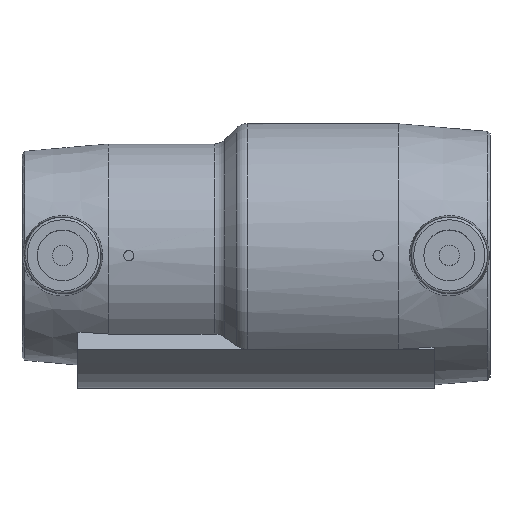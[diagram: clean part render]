
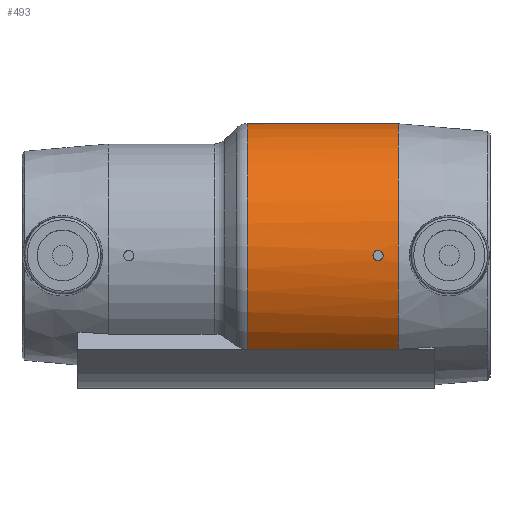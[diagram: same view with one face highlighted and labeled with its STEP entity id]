
A CAD part, top view. The second image highlights one B-rep face of the part: STEP entity #493.
In plain terms, the highlighted cylindrical face has radius 26 mm (diameter 52 mm), a partial arc.
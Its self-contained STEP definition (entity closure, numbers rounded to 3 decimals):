
#40=CYLINDRICAL_SURFACE('',#548,26.);
#53=LINE('',#829,#66);
#54=LINE('',#831,#67);
#66=VECTOR('',#632,1000.);
#67=VECTOR('',#633,1000.);
#80=CIRCLE('',#547,26.);
#81=CIRCLE('',#549,26.);
#120=ORIENTED_EDGE('',*,*,#240,.T.);
#121=ORIENTED_EDGE('',*,*,#241,.F.);
#122=ORIENTED_EDGE('',*,*,#239,.T.);
#123=ORIENTED_EDGE('',*,*,#242,.F.);
#124=ORIENTED_EDGE('',*,*,#243,.T.);
#239=EDGE_CURVE('',#297,#299,#80,.T.);
#240=EDGE_CURVE('',#300,#300,#344,.T.);
#241=EDGE_CURVE('',#297,#301,#53,.T.);
#242=EDGE_CURVE('',#302,#299,#54,.F.);
#243=EDGE_CURVE('',#302,#301,#81,.T.);
#297=VERTEX_POINT('',#810);
#299=VERTEX_POINT('',#814);
#300=VERTEX_POINT('',#828);
#301=VERTEX_POINT('',#830);
#302=VERTEX_POINT('',#832);
#344=B_SPLINE_CURVE_WITH_KNOTS('',3,(#817,#818,#819,#820,#821,#822,#823,
#824,#825,#826,#827),.UNSPECIFIED.,.T.,.F.,(1,1,1,1,1,1,1,1,1,1,1,1,1,1,
1),(-0.002,-0.002,-0.001,0.,
0.001,0.002,0.002,0.003,
0.004,0.005,0.005,0.006,
0.007,0.008,0.009),
 .UNSPECIFIED.);
#355=EDGE_LOOP('',(#120));
#356=EDGE_LOOP('',(#121,#122,#123,#124));
#421=FACE_BOUND('',#355,.T.);
#422=FACE_BOUND('',#356,.T.);
#493=ADVANCED_FACE('',(#421,#422),#40,.T.);
#547=AXIS2_PLACEMENT_3D('',#815,#628,#629);
#548=AXIS2_PLACEMENT_3D('',#816,#630,#631);
#549=AXIS2_PLACEMENT_3D('',#833,#634,#635);
#628=DIRECTION('',(-1.,0.,0.));
#629=DIRECTION('',(0.,0.,1.));
#630=DIRECTION('',(-1.,0.,0.));
#631=DIRECTION('',(0.,0.,1.));
#632=DIRECTION('',(-1.,0.,0.));
#633=DIRECTION('',(-1.,0.,0.));
#634=DIRECTION('',(1.,0.,0.));
#635=DIRECTION('',(0.,0.,-1.));
#810=CARTESIAN_POINT('',(33.,-18.413,18.357));
#814=CARTESIAN_POINT('',(33.,-26.,0.));
#815=CARTESIAN_POINT('',(33.,0.,0.));
#816=CARTESIAN_POINT('',(-60.,0.,0.));
#817=CARTESIAN_POINT('',(29.783,0.785,25.99));
#818=CARTESIAN_POINT('',(30.108,0.,26.005));
#819=CARTESIAN_POINT('',(29.783,-0.784,25.99));
#820=CARTESIAN_POINT('',(29.001,-1.108,25.976));
#821=CARTESIAN_POINT('',(28.217,-0.784,25.99));
#822=CARTESIAN_POINT('',(27.892,0.,26.005));
#823=CARTESIAN_POINT('',(28.216,0.783,25.99));
#824=CARTESIAN_POINT('',(28.999,1.108,25.976));
#825=CARTESIAN_POINT('',(29.783,0.785,25.99));
#826=CARTESIAN_POINT('',(30.108,0.,26.005));
#827=CARTESIAN_POINT('',(29.783,-0.784,25.99));
#828=CARTESIAN_POINT('',(30.,0.,26.));
#829=CARTESIAN_POINT('',(-60.,-18.413,18.357));
#830=CARTESIAN_POINT('',(3.243,-18.413,18.357));
#831=CARTESIAN_POINT('',(-60.,-26.,0.));
#832=CARTESIAN_POINT('',(3.243,-26.,0.));
#833=CARTESIAN_POINT('',(3.243,0.,0.));
